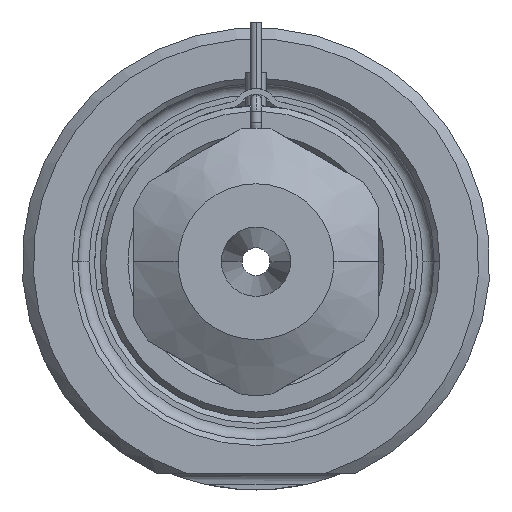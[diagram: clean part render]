
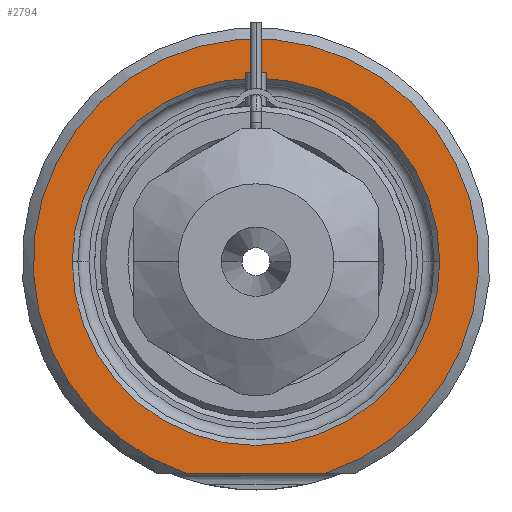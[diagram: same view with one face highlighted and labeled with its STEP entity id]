
A CAD part, front view. The second image highlights one B-rep face of the part: STEP entity #2794.
In plain terms, the highlighted planar face has unit normal (0, -1, 0).
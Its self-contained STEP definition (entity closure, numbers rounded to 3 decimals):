
#1=DIRECTION('',(1.,0.,0.));
#2=VECTOR('',#1,12.49);
#3=CARTESIAN_POINT('',(-6.245,0.,-19.));
#4=LINE('',#3,#2);
#5=CARTESIAN_POINT('',(0.,0.,0.));
#6=DIRECTION('',(0.,1.,0.));
#7=DIRECTION('',(-1.,0.,0.));
#8=AXIS2_PLACEMENT_3D('',#5,#6,#7);
#10=CARTESIAN_POINT('',(0.,0.,0.));
#11=DIRECTION('',(0.,1.,0.));
#12=DIRECTION('',(1.,0.,0.));
#13=AXIS2_PLACEMENT_3D('',#10,#11,#12);
#119=CARTESIAN_POINT('',(0.,0.,0.));
#120=DIRECTION('',(0.,-1.,0.));
#121=DIRECTION('',(0.312,0.,-0.95));
#122=AXIS2_PLACEMENT_3D('',#119,#120,#121);
#2335=CARTESIAN_POINT('',(-16.5,0.,0.));
#2336=CARTESIAN_POINT('',(16.5,0.,0.));
#2337=VERTEX_POINT('',#2335);
#2338=VERTEX_POINT('',#2336);
#2375=CARTESIAN_POINT('',(-6.245,0.,-19.));
#2376=CARTESIAN_POINT('',(6.245,0.,-19.));
#2377=VERTEX_POINT('',#2375);
#2378=VERTEX_POINT('',#2376);
#2777=CARTESIAN_POINT('',(0.,0.,0.));
#2778=DIRECTION('',(0.,-1.,0.));
#2779=DIRECTION('',(1.,0.,0.));
#2780=AXIS2_PLACEMENT_3D('',#2777,#2778,#2779);
#2781=PLANE('',#2780);
#2783=ORIENTED_EDGE('',*,*,#2782,.F.);
#2785=ORIENTED_EDGE('',*,*,#2784,.F.);
#2786=EDGE_LOOP('',(#2783,#2785));
#2787=FACE_OUTER_BOUND('',#2786,.F.);
#2789=ORIENTED_EDGE('',*,*,#2788,.F.);
#2791=ORIENTED_EDGE('',*,*,#2790,.F.);
#2792=EDGE_LOOP('',(#2789,#2791));
#2793=FACE_BOUND('',#2792,.F.);
#2794=ADVANCED_FACE('',(#2787,#2793),#2781,.T.);
#9=CIRCLE('',#8,16.5);
#14=CIRCLE('',#13,16.5);
#123=CIRCLE('',#122,20.);
#2782=EDGE_CURVE('',#2377,#2378,#4,.T.);
#2784=EDGE_CURVE('',#2378,#2377,#123,.T.);
#2788=EDGE_CURVE('',#2337,#2338,#9,.T.);
#2790=EDGE_CURVE('',#2338,#2337,#14,.T.);
